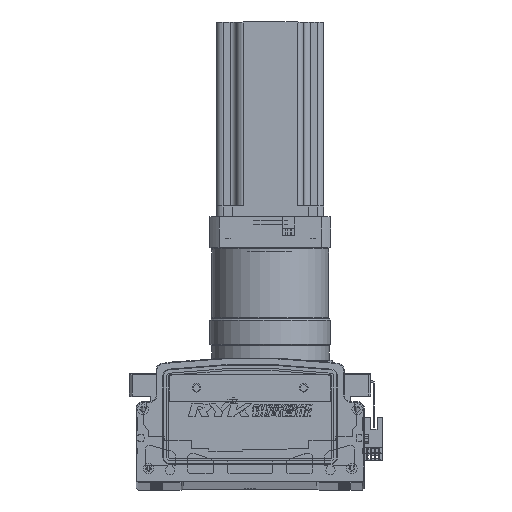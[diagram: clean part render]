
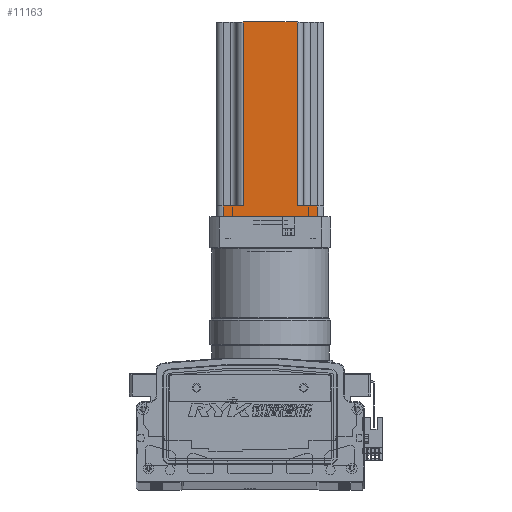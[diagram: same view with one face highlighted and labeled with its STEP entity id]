
A CAD part, top view. The second image highlights one B-rep face of the part: STEP entity #11163.
In plain terms, the highlighted planar face has unit normal (0, 0, 1) as drawn and (0, -1, 0) by its records, which use the part's own axes.
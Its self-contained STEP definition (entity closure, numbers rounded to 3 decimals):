
#4346 = ORIENTED_EDGE ( 'NONE', *, *, #95428, .T. ) ;
#4364 = ORIENTED_EDGE ( 'NONE', *, *, #95387, .T. ) ;
#4399 = ORIENTED_EDGE ( 'NONE', *, *, #95409, .F. ) ;
#4400 = ORIENTED_EDGE ( 'NONE', *, *, #95420, .T. ) ;
#4408 = ORIENTED_EDGE ( 'NONE', *, *, #95421, .F. ) ;
#4414 = ORIENTED_EDGE ( 'NONE', *, *, #95434, .T. ) ;
#4428 = ORIENTED_EDGE ( 'NONE', *, *, #95422, .T. ) ;
#4455 = ORIENTED_EDGE ( 'NONE', *, *, #95418, .F. ) ;
#11163 = ADVANCED_FACE ( 'NONE', ( #92193 ), #23145, .F. ) ;
#17088 = EDGE_LOOP ( 'NONE', ( #4408, #4414, #4364, #4400, #4399, #4428, #4455, #4346 ) ) ;
#23145 = PLANE ( 'NONE',  #63498 ) ;
#23149 = DIRECTION ( 'NONE',  ( 0., 1., 0. ) ) ;
#23164 = CARTESIAN_POINT ( 'NONE',  ( -87.587, -40.37, 145. ) ) ;
#23165 = DIRECTION ( 'NONE',  ( -1., 0., 0. ) ) ;
#63498 = AXIS2_PLACEMENT_3D ( 'NONE', #23164, #23149, #23165 ) ;
#87324 = DIRECTION ( 'NONE',  ( 1., 0., 0. ) ) ;
#87341 = CARTESIAN_POINT ( 'NONE',  ( -87.587, -40.37, 0. ) ) ;
#87365 = CARTESIAN_POINT ( 'NONE',  ( -7.587, -40.37, 8. ) ) ;
#87390 = DIRECTION ( 'NONE',  ( 1., 0., 0. ) ) ;
#87395 = DIRECTION ( 'NONE',  ( 0., 0., 1. ) ) ;
#87403 = CARTESIAN_POINT ( 'NONE',  ( -12.587, -40.37, 145. ) ) ;
#87410 = CARTESIAN_POINT ( 'NONE',  ( -87.587, -40.37, 145. ) ) ;
#87411 = CARTESIAN_POINT ( 'NONE',  ( -87.587, -40.37, 8. ) ) ;
#87416 = DIRECTION ( 'NONE',  ( 0., 0., 1. ) ) ;
#87421 = DIRECTION ( 'NONE',  ( 1., 0., 0. ) ) ;
#87424 = CARTESIAN_POINT ( 'NONE',  ( -27.587, -40.37, 145. ) ) ;
#87425 = DIRECTION ( 'NONE',  ( 1., 0., 0. ) ) ;
#87433 = DIRECTION ( 'NONE',  ( 0., 0., -1. ) ) ;
#87436 = DIRECTION ( 'NONE',  ( 0., 0., -1. ) ) ;
#87437 = CARTESIAN_POINT ( 'NONE',  ( -82.587, -40.37, 145. ) ) ;
#87453 = CARTESIAN_POINT ( 'NONE',  ( -67.587, -40.37, 145. ) ) ;
#89685 = CARTESIAN_POINT ( 'NONE',  ( -67.587, -40.37, 145. ) ) ;
#89729 = CARTESIAN_POINT ( 'NONE',  ( -27.587, -40.37, 145. ) ) ;
#89783 = CARTESIAN_POINT ( 'NONE',  ( -12.587, -40.37, 8. ) ) ;
#89794 = CARTESIAN_POINT ( 'NONE',  ( -67.587, -40.37, 8. ) ) ;
#89800 = CARTESIAN_POINT ( 'NONE',  ( -12.587, -40.37, 0. ) ) ;
#89811 = CARTESIAN_POINT ( 'NONE',  ( -82.587, -40.37, 0. ) ) ;
#89813 = CARTESIAN_POINT ( 'NONE',  ( -27.587, -40.37, 8. ) ) ;
#89824 = CARTESIAN_POINT ( 'NONE',  ( -82.587, -40.37, 8. ) ) ;
#90334 = VERTEX_POINT ( 'NONE', #89685 ) ;
#90380 = VERTEX_POINT ( 'NONE', #89800 ) ;
#90395 = VERTEX_POINT ( 'NONE', #89811 ) ;
#90397 = VERTEX_POINT ( 'NONE', #89794 ) ;
#90399 = VERTEX_POINT ( 'NONE', #89813 ) ;
#90410 = VERTEX_POINT ( 'NONE', #89729 ) ;
#90440 = VERTEX_POINT ( 'NONE', #89783 ) ;
#90441 = VERTEX_POINT ( 'NONE', #89824 ) ;
#92193 = FACE_OUTER_BOUND ( 'NONE', #17088, .T. ) ;
#94948 = LINE ( 'NONE', #87410, #94949 ) ;
#94949 = VECTOR ( 'NONE', #87390, 1000. ) ;
#94974 = LINE ( 'NONE', #87365, #95008 ) ;
#94978 = VECTOR ( 'NONE', #87324, 1000. ) ;
#94999 = LINE ( 'NONE', #87341, #94978 ) ;
#95008 = VECTOR ( 'NONE', #87425, 1000. ) ;
#95015 = LINE ( 'NONE', #87453, #95028 ) ;
#95023 = LINE ( 'NONE', #87403, #95043 ) ;
#95024 = VECTOR ( 'NONE', #87395, 1000. ) ;
#95026 = VECTOR ( 'NONE', #87421, 1000. ) ;
#95028 = VECTOR ( 'NONE', #87433, 1000. ) ;
#95030 = LINE ( 'NONE', #87437, #95035 ) ;
#95034 = LINE ( 'NONE', #87411, #95026 ) ;
#95035 = VECTOR ( 'NONE', #87436, 1000. ) ;
#95043 = VECTOR ( 'NONE', #87416, 1000. ) ;
#95049 = LINE ( 'NONE', #87424, #95024 ) ;
#95387 = EDGE_CURVE ( 'NONE', #90395, #90380, #94999, .T. ) ;
#95409 = EDGE_CURVE ( 'NONE', #90399, #90440, #94974, .T. ) ;
#95418 = EDGE_CURVE ( 'NONE', #90334, #90410, #94948, .T. ) ;
#95420 = EDGE_CURVE ( 'NONE', #90380, #90440, #95023, .T. ) ;
#95421 = EDGE_CURVE ( 'NONE', #90441, #90397, #95034, .T. ) ;
#95422 = EDGE_CURVE ( 'NONE', #90399, #90410, #95049, .T. ) ;
#95428 = EDGE_CURVE ( 'NONE', #90334, #90397, #95015, .T. ) ;
#95434 = EDGE_CURVE ( 'NONE', #90441, #90395, #95030, .T. ) ;
